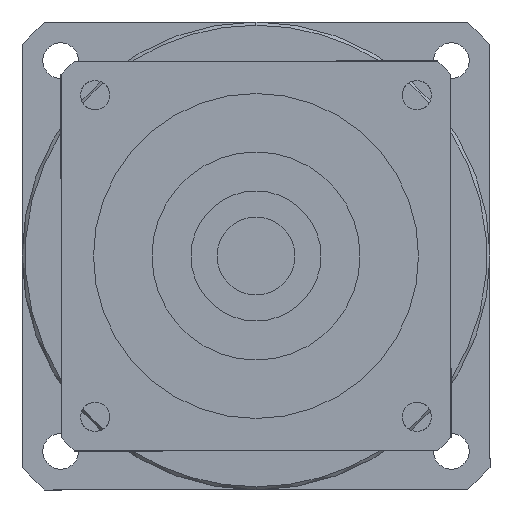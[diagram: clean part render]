
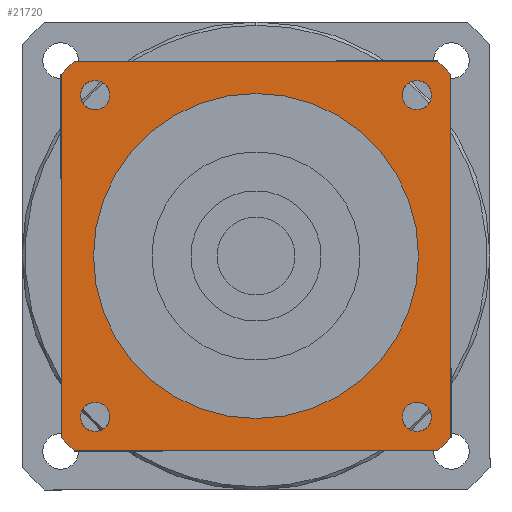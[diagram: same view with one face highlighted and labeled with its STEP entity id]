
A CAD part, left-side view. The second image highlights one B-rep face of the part: STEP entity #21720.
In plain terms, the highlighted planar face has unit normal (-1, 0, 0) as drawn and (0, 0, -1) by its records, which use the part's own axes.
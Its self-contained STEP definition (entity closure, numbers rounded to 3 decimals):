
#15410=CARTESIAN_POINT('',(27.946,30.,-97.5));
#15420=VERTEX_POINT('',#15410);
#15450=CARTESIAN_POINT('',(0.,0.,
-97.5));
#15460=DIRECTION('',(0.,0.,1.));
#15470=DIRECTION('',(0.,-1.,0.));
#15480=AXIS2_PLACEMENT_3D('',#15450,#15460,#15470);
#15490=CIRCLE('',#15480,41.);
#15500=CARTESIAN_POINT('',(30.,27.946,-97.5));
#15510=VERTEX_POINT('',#15500);
#15520=EDGE_CURVE('',#15510,#15420,#15490,.T.);
#18330=CARTESIAN_POINT('',(-27.946,30.,-97.5));
#18340=VERTEX_POINT('',#18330);
#18420=CARTESIAN_POINT('',(-30.,27.946,-97.5));
#18430=VERTEX_POINT('',#18420);
#18460=CARTESIAN_POINT('',(0.,0.,
-97.5));
#18470=DIRECTION('',(0.,0.,1.));
#18480=DIRECTION('',(0.,-1.,0.));
#18490=AXIS2_PLACEMENT_3D('',#18460,#18470,#18480);
#18500=CIRCLE('',#18490,41.);
#18510=EDGE_CURVE('',#18340,#18430,#18500,.T.);
#19020=CARTESIAN_POINT('',(-30.,-27.946,-97.5));
#19030=VERTEX_POINT('',#19020);
#19110=CARTESIAN_POINT('',(-27.946,-30.,-97.5));
#19120=VERTEX_POINT('',#19110);
#19150=CARTESIAN_POINT('',(0.,0.,
-97.5));
#19160=DIRECTION('',(0.,0.,1.));
#19170=DIRECTION('',(0.,-1.,0.));
#19180=AXIS2_PLACEMENT_3D('',#19150,#19160,#19170);
#19190=CIRCLE('',#19180,41.);
#19200=EDGE_CURVE('',#19030,#19120,#19190,.T.);
#19670=CARTESIAN_POINT('',(27.946,-30.,-97.5));
#19680=VERTEX_POINT('',#19670);
#19760=CARTESIAN_POINT('',(30.,-27.946,-97.5));
#19770=VERTEX_POINT('',#19760);
#19800=CARTESIAN_POINT('',(0.,0.,
-97.5));
#19810=DIRECTION('',(0.,0.,1.));
#19820=DIRECTION('',(0.,-1.,0.));
#19830=AXIS2_PLACEMENT_3D('',#19800,#19810,#19820);
#19840=CIRCLE('',#19830,41.);
#19850=EDGE_CURVE('',#19680,#19770,#19840,.T.);
#20000=CARTESIAN_POINT('',(30.,-30.,-97.5));
#20010=DIRECTION('',(0.,1.,0.));
#20020=VECTOR('',#20010,1000.);
#20030=LINE('',#20000,#20020);
#20040=EDGE_CURVE('',#19770,#15510,#20030,.T.);
#20190=CARTESIAN_POINT('',(30.,30.,-97.5));
#20200=DIRECTION('',(-1.,0.,0.));
#20210=VECTOR('',#20200,1000.);
#20220=LINE('',#20190,#20210);
#20230=EDGE_CURVE('',#15420,#18340,#20220,.T.);
#20370=CARTESIAN_POINT('',(-24.749,22.499,-97.5));
#20380=VERTEX_POINT('',#20370);
#20470=CARTESIAN_POINT('',(-24.749,26.999,-97.5));
#20480=VERTEX_POINT('',#20470);
#20510=CARTESIAN_POINT('',(-24.749,24.749,-97.5));
#20520=DIRECTION('',(0.,0.,-1.));
#20530=DIRECTION('',(-1.,0.,0.));
#20540=AXIS2_PLACEMENT_3D('',#20510,#20520,#20530);
#20550=CIRCLE('',#20540,2.25);
#20560=CARTESIAN_POINT('',(-26.999,24.749,-97.5));
#20570=VERTEX_POINT('',#20560);
#20580=EDGE_CURVE('',#20570,#20480,#20550,.T.);
#20600=EDGE_CURVE('',#20380,#20570,#20550,.T.);
#20650=CARTESIAN_POINT('',(-30.,30.,-97.5));
#20660=DIRECTION('',(0.,0.,1.));
#20670=DIRECTION('',(-1.,0.,0.));
#20680=AXIS2_PLACEMENT_3D('',#20650,#20660,#20670);
#20690=PLANE('',#20680);
#20700=CARTESIAN_POINT('',(24.749,-24.749,-97.5));
#20710=DIRECTION('',(0.,0.,-1.));
#20720=DIRECTION('',(1.,0.,0.));
#20730=AXIS2_PLACEMENT_3D('',#20700,#20710,#20720);
#20740=CIRCLE('',#20730,2.25);
#20750=CARTESIAN_POINT('',(26.999,-24.749,-97.5));
#20760=VERTEX_POINT('',#20750);
#20770=CARTESIAN_POINT('',(24.749,-26.999,-97.5));
#20780=VERTEX_POINT('',#20770);
#20790=EDGE_CURVE('',#20760,#20780,#20740,.T.);
#20800=ORIENTED_EDGE('',*,*,#20790,.F.);
#20810=CARTESIAN_POINT('',(24.749,-22.499,-97.5));
#20820=VERTEX_POINT('',#20810);
#20830=EDGE_CURVE('',#20780,#20820,#20740,.T.);
#20840=ORIENTED_EDGE('',*,*,#20830,.F.);
#20850=EDGE_CURVE('',#20820,#20760,#20740,.T.);
#20860=ORIENTED_EDGE('',*,*,#20850,.F.);
#20870=EDGE_LOOP('',(#20860,#20840,#20800));
#20880=FACE_BOUND('',#20870,.T.);
#20890=CARTESIAN_POINT('',(24.749,24.749,-97.5));
#20900=DIRECTION('',(0.,0.,-1.));
#20910=DIRECTION('',(0.,1.,0.));
#20920=AXIS2_PLACEMENT_3D('',#20890,#20900,#20910);
#20930=CIRCLE('',#20920,2.25);
#20940=CARTESIAN_POINT('',(24.749,26.999,-97.5));
#20950=VERTEX_POINT('',#20940);
#20960=CARTESIAN_POINT('',(26.999,24.749,-97.5));
#20970=VERTEX_POINT('',#20960);
#20980=EDGE_CURVE('',#20950,#20970,#20930,.T.);
#20990=ORIENTED_EDGE('',*,*,#20980,.F.);
#21000=CARTESIAN_POINT('',(22.499,24.749,-97.5));
#21010=VERTEX_POINT('',#21000);
#21020=EDGE_CURVE('',#20970,#21010,#20930,.T.);
#21030=ORIENTED_EDGE('',*,*,#21020,.F.);
#21040=EDGE_CURVE('',#21010,#20950,#20930,.T.);
#21050=ORIENTED_EDGE('',*,*,#21040,.F.);
#21060=EDGE_LOOP('',(#21050,#21030,#20990));
#21070=FACE_BOUND('',#21060,.T.);
#21080=ORIENTED_EDGE('',*,*,#20580,.F.);
#21090=EDGE_CURVE('',#20480,#20380,#20550,.T.);
#21100=ORIENTED_EDGE('',*,*,#21090,.F.);
#21110=ORIENTED_EDGE('',*,*,#20600,.F.);
#21120=EDGE_LOOP('',(#21110,#21100,#21080));
#21130=FACE_BOUND('',#21120,.T.);
#21140=CARTESIAN_POINT('',(-24.749,-24.749,-97.5));
#21150=DIRECTION('',(0.,0.,-1.));
#21160=DIRECTION('',(0.,-1.,0.));
#21170=AXIS2_PLACEMENT_3D('',#21140,#21150,#21160);
#21180=CIRCLE('',#21170,2.25);
#21190=CARTESIAN_POINT('',(-24.749,-26.999,-97.5));
#21200=VERTEX_POINT('',#21190);
#21210=CARTESIAN_POINT('',(-26.999,-24.749,-97.5));
#21220=VERTEX_POINT('',#21210);
#21230=EDGE_CURVE('',#21200,#21220,#21180,.T.);
#21240=ORIENTED_EDGE('',*,*,#21230,.F.);
#21250=CARTESIAN_POINT('',(-22.499,-24.749,-97.5));
#21260=VERTEX_POINT('',#21250);
#21270=EDGE_CURVE('',#21220,#21260,#21180,.T.);
#21280=ORIENTED_EDGE('',*,*,#21270,.F.);
#21290=EDGE_CURVE('',#21260,#21200,#21180,.T.);
#21300=ORIENTED_EDGE('',*,*,#21290,.F.);
#21310=EDGE_LOOP('',(#21300,#21280,#21240));
#21320=FACE_BOUND('',#21310,.T.);
#21330=ORIENTED_EDGE('',*,*,#19200,.F.);
#21340=CARTESIAN_POINT('',(-30.,-30.,-97.5));
#21350=DIRECTION('',(1.,0.,0.));
#21360=VECTOR('',#21350,1000.);
#21370=LINE('',#21340,#21360);
#21380=EDGE_CURVE('',#19120,#19680,#21370,.T.);
#21390=ORIENTED_EDGE('',*,*,#21380,.F.);
#21400=ORIENTED_EDGE('',*,*,#19850,.F.);
#21410=ORIENTED_EDGE('',*,*,#20040,.F.);
#21420=ORIENTED_EDGE('',*,*,#15520,.F.);
#21430=ORIENTED_EDGE('',*,*,#20230,.F.);
#21440=ORIENTED_EDGE('',*,*,#18510,.F.);
#21450=CARTESIAN_POINT('',(-30.,30.,-97.5));
#21460=DIRECTION('',(0.,-1.,0.));
#21470=VECTOR('',#21460,1000.);
#21480=LINE('',#21450,#21470);
#21490=EDGE_CURVE('',#18430,#19030,#21480,.T.);
#21500=ORIENTED_EDGE('',*,*,#21490,.F.);
#21510=EDGE_LOOP('',(#21500,#21440,#21430,#21420,#21410,#21400,#21390,
#21330));
#21520=FACE_OUTER_BOUND('',#21510,.T.);
#21530=CARTESIAN_POINT('',(0.,0.,
-97.5));
#21540=DIRECTION('',(0.,0.,1.));
#21550=DIRECTION('',(0.,-1.,0.));
#21560=AXIS2_PLACEMENT_3D('',#21530,#21540,#21550);
#21570=CIRCLE('',#21560,25.);
#21580=CARTESIAN_POINT('',(25.,0.,-97.5));
#21590=VERTEX_POINT('',#21580);
#21600=CARTESIAN_POINT('',(-25.,0.,-97.5));
#21610=VERTEX_POINT('',#21600);
#21620=EDGE_CURVE('',#21590,#21610,#21570,.T.);
#21630=ORIENTED_EDGE('',*,*,#21620,.T.);
#21640=CARTESIAN_POINT('',(0.,-25.,-97.5));
#21650=VERTEX_POINT('',#21640);
#21660=EDGE_CURVE('',#21650,#21590,#21570,.T.);
#21670=ORIENTED_EDGE('',*,*,#21660,.T.);
#21680=EDGE_CURVE('',#21610,#21650,#21570,.T.);
#21690=ORIENTED_EDGE('',*,*,#21680,.T.);
#21700=EDGE_LOOP('',(#21690,#21670,#21630));
#21710=FACE_BOUND('',#21700,.T.);
#21720=ADVANCED_FACE('',(#20880,#21070,#21130,#21320,#21520,#21710),
#20690,.F.);
